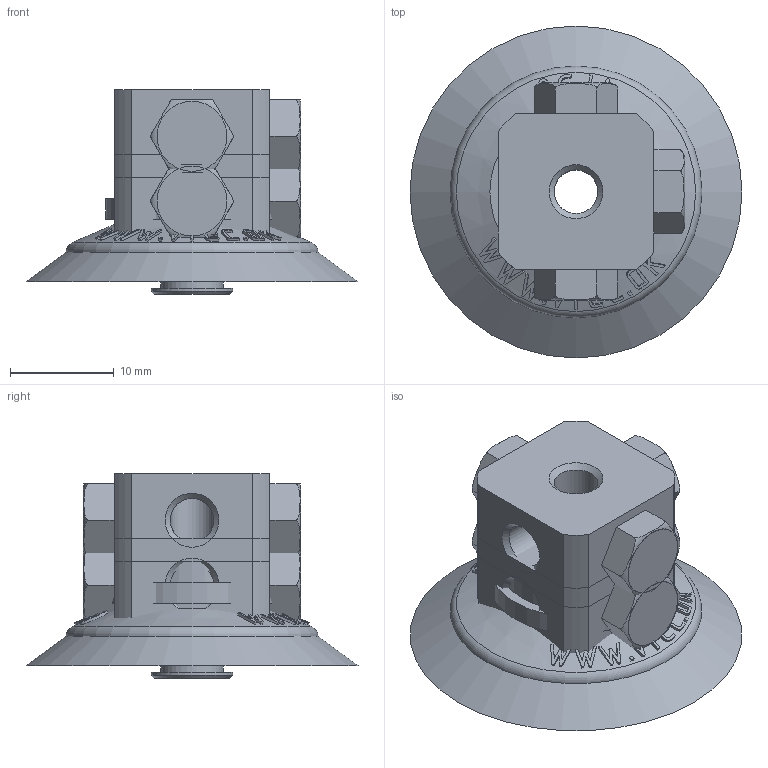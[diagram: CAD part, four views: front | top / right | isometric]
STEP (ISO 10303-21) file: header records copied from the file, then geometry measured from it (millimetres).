
FILE_DESCRIPTION( ( 'STEP AP203' ), '1' );
FILE_NAME( 'C:/Documents and Settings/Owner/官帕 拳搁/3D/Vacuum Pad/VF series/VF30-M5X5F.stp', '2006-04-25T04:53:35', ( ' ' ), ( ' ' ), 'XStep 1.0', ' ', ' ' );
FILE_SCHEMA( ( 'CONFIG_CONTROL_DESIGN) ( )' ) );
Length unit declared in the file: metre
Products named in the file (3): Assem1; 1; 2
Bounding box: 32 x 32 x 19.74 mm (x, y, z)
Volume: 8666.6 mm3; surface area: 7771.6 mm2
Topology: 4 solids, 4 shells, 496 faces, 1208 edges, 796 vertices
Faces by surface type: bspline 246, plane 130, cylinder 58, cone 54, revolution 6, torus 2
Full cylindrical faces by diameter (mm): 4.2 x4, 4.4 x2, 5 x4, 6 x6, 6.4 x2, 6.471 x2, 6.568 x2, 6.742 x2, 7 x2, 7.9 x2, 14.6 x2, 15 x2, 16.6 x2
Entity records: 12642 total; most frequent: CARTESIAN_POINT 7807, ORIENTED_EDGE 1132, EDGE_CURVE 566, DIRECTION 543, VERTEX_POINT 394, B_SPLINE_CURVE_WITH_KNOTS 346, EDGE_LOOP 326, FACE_OUTER_BOUND 271
